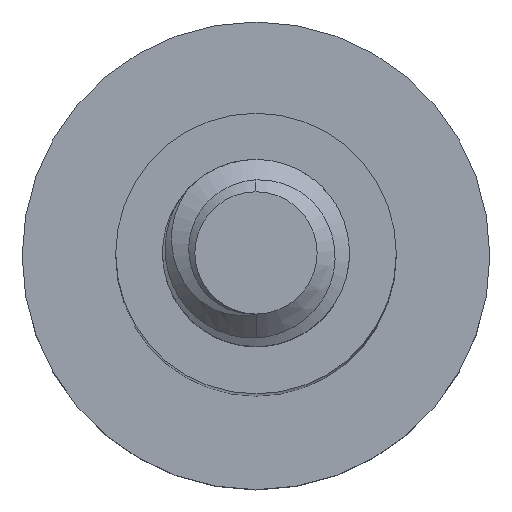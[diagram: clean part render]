
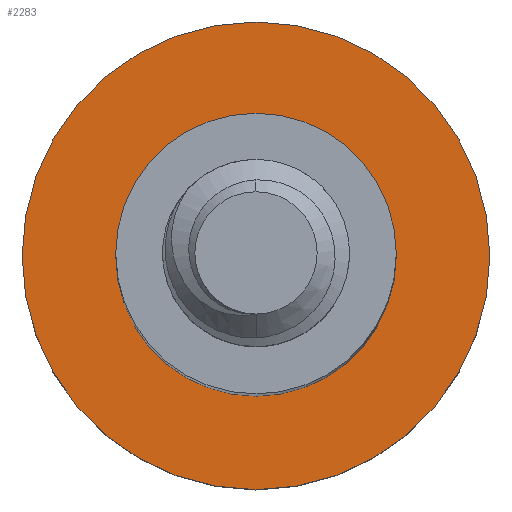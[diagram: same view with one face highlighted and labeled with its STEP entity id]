
A CAD part, top view. The second image highlights one B-rep face of the part: STEP entity #2283.
In plain terms, the highlighted planar face has unit normal (0, 0, 1).
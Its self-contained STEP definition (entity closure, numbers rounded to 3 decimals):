
#60 = VERTEX_POINT ( 'NONE', #1805 ) ;
#135 = CARTESIAN_POINT ( 'NONE',  ( 0., 0., -14. ) ) ;
#418 = DIRECTION ( 'NONE',  ( 0., 0., -1. ) ) ;
#477 = AXIS2_PLACEMENT_3D ( 'NONE', #1444, #418, #2119 ) ;
#520 = FACE_BOUND ( 'NONE', #2358, .T. ) ;
#570 = CIRCLE ( 'NONE', #883, 1.5 ) ;
#636 = CARTESIAN_POINT ( 'NONE',  ( -1.5, 0., -14. ) ) ;
#654 = ORIENTED_EDGE ( 'NONE', *, *, #1349, .T. ) ;
#679 = CARTESIAN_POINT ( 'NONE',  ( -2.5, 0., -14. ) ) ;
#702 = DIRECTION ( 'NONE',  ( 0., 0., -1. ) ) ;
#798 = EDGE_CURVE ( 'NONE', #2175, #60, #1534, .T. ) ;
#848 = DIRECTION ( 'NONE',  ( -1., 0., 0. ) ) ;
#854 = ORIENTED_EDGE ( 'NONE', *, *, #1450, .F. ) ;
#872 = EDGE_CURVE ( 'NONE', #2475, #1201, #1292, .T. ) ;
#883 = AXIS2_PLACEMENT_3D ( 'NONE', #135, #918, #1834 ) ;
#918 = DIRECTION ( 'NONE',  ( 0., 0., -1. ) ) ;
#922 = DIRECTION ( 'NONE',  ( -1., 0., 0. ) ) ;
#976 = AXIS2_PLACEMENT_3D ( 'NONE', #1657, #1278, #848 ) ;
#1195 = CIRCLE ( 'NONE', #1891, 2.5 ) ;
#1201 = VERTEX_POINT ( 'NONE', #679 ) ;
#1253 = FACE_OUTER_BOUND ( 'NONE', #1970, .T. ) ;
#1278 = DIRECTION ( 'NONE',  ( 0., 0., -1. ) ) ;
#1292 = CIRCLE ( 'NONE', #477, 2.5 ) ;
#1349 = EDGE_CURVE ( 'NONE', #60, #2175, #570, .T. ) ;
#1401 = AXIS2_PLACEMENT_3D ( 'NONE', #1900, #702, #922 ) ;
#1444 = CARTESIAN_POINT ( 'NONE',  ( 0., 0., -14. ) ) ;
#1450 = EDGE_CURVE ( 'NONE', #1201, #2475, #1195, .T. ) ;
#1519 = DIRECTION ( 'NONE',  ( 0., 0., -1. ) ) ;
#1534 = CIRCLE ( 'NONE', #1401, 1.5 ) ;
#1657 = CARTESIAN_POINT ( 'NONE',  ( 0., 0., -14. ) ) ;
#1805 = CARTESIAN_POINT ( 'NONE',  ( 1.5, 0., -14. ) ) ;
#1834 = DIRECTION ( 'NONE',  ( -1., 0., 0. ) ) ;
#1891 = AXIS2_PLACEMENT_3D ( 'NONE', #2442, #1519, #2064 ) ;
#1900 = CARTESIAN_POINT ( 'NONE',  ( 0., 0., -14. ) ) ;
#1970 = EDGE_LOOP ( 'NONE', ( #2288, #854 ) ) ;
#2007 = PLANE ( 'NONE',  #976 ) ;
#2064 = DIRECTION ( 'NONE',  ( -1., 0., 0. ) ) ;
#2070 = ORIENTED_EDGE ( 'NONE', *, *, #798, .T. ) ;
#2119 = DIRECTION ( 'NONE',  ( -1., 0., 0. ) ) ;
#2175 = VERTEX_POINT ( 'NONE', #636 ) ;
#2283 = ADVANCED_FACE ( 'NONE', ( #520, #1253 ), #2007, .F. ) ;
#2288 = ORIENTED_EDGE ( 'NONE', *, *, #872, .F. ) ;
#2358 = EDGE_LOOP ( 'NONE', ( #2070, #654 ) ) ;
#2442 = CARTESIAN_POINT ( 'NONE',  ( 0., 0., -14. ) ) ;
#2475 = VERTEX_POINT ( 'NONE', #2477 ) ;
#2477 = CARTESIAN_POINT ( 'NONE',  ( 2.5, 0., -14. ) ) ;
